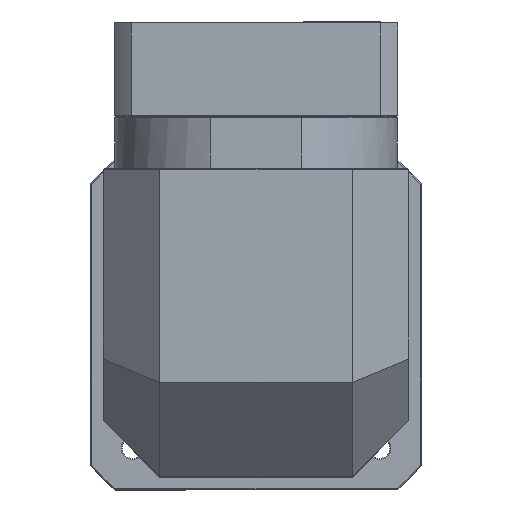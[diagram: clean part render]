
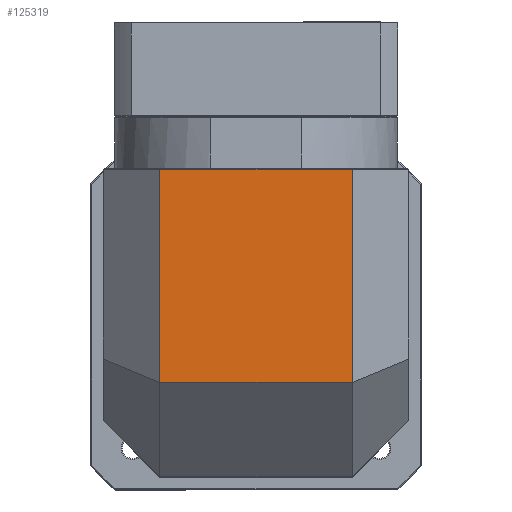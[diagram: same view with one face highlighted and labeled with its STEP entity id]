
A CAD part, top view. The second image highlights one B-rep face of the part: STEP entity #125319.
In plain terms, the highlighted planar face has unit normal (0, 0, 1).
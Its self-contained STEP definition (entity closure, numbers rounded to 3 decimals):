
#2759 = FACE_OUTER_BOUND ( 'NONE', #38776, .T. ) ;
#5895 = ORIENTED_EDGE ( 'NONE', *, *, #115146, .F. ) ;
#8094 = LINE ( 'NONE', #99362, #36202 ) ;
#10447 = DIRECTION ( 'NONE',  ( 0., 0., -1. ) ) ;
#20468 = DIRECTION ( 'NONE',  ( 1., 0., 0. ) ) ;
#23178 = CARTESIAN_POINT ( 'NONE',  ( -137.694, -20.362, 425.95 ) ) ;
#36202 = VECTOR ( 'NONE', #39516, 1000. ) ;
#38776 = EDGE_LOOP ( 'NONE', ( #70185, #68824, #5895, #107032 ) ) ;
#39516 = DIRECTION ( 'NONE',  ( -1., 0., 0. ) ) ;
#48584 = EDGE_CURVE ( 'NONE', #62136, #49721, #8094, .T. ) ;
#48909 = CARTESIAN_POINT ( 'NONE',  ( -137.694, 93.138, 425.95 ) ) ;
#49721 = VERTEX_POINT ( 'NONE', #120597 ) ;
#57179 = CARTESIAN_POINT ( 'NONE',  ( -107.694, -20.362, 425.95 ) ) ;
#57684 = CARTESIAN_POINT ( 'NONE',  ( -5.694, 93.138, 425.95 ) ) ;
#62136 = VERTEX_POINT ( 'NONE', #114662 ) ;
#68824 = ORIENTED_EDGE ( 'NONE', *, *, #48584, .T. ) ;
#69506 = PLANE ( 'NONE',  #90869 ) ;
#70185 = ORIENTED_EDGE ( 'NONE', *, *, #79382, .T. ) ;
#71496 = EDGE_CURVE ( 'NONE', #108221, #127616, #88528, .T. ) ;
#79382 = EDGE_CURVE ( 'NONE', #127616, #62136, #105208, .T. ) ;
#82256 = VECTOR ( 'NONE', #93917, 1000. ) ;
#82370 = CARTESIAN_POINT ( 'NONE',  ( -107.694, 11.388, 425.95 ) ) ;
#82819 = DIRECTION ( 'NONE',  ( 0., 1., 0. ) ) ;
#88528 = LINE ( 'NONE', #23178, #82256 ) ;
#90869 = AXIS2_PLACEMENT_3D ( 'NONE', #48909, #10447, #20468 ) ;
#93917 = DIRECTION ( 'NONE',  ( 1., 0., 0. ) ) ;
#99362 = CARTESIAN_POINT ( 'NONE',  ( -137.694, 92.638, 425.95 ) ) ;
#105208 = LINE ( 'NONE', #57684, #111376 ) ;
#106906 = LINE ( 'NONE', #82370, #128694 ) ;
#107032 = ORIENTED_EDGE ( 'NONE', *, *, #71496, .T. ) ;
#108221 = VERTEX_POINT ( 'NONE', #57179 ) ;
#111376 = VECTOR ( 'NONE', #128722, 1000. ) ;
#114662 = CARTESIAN_POINT ( 'NONE',  ( -5.694, 92.638, 425.95 ) ) ;
#115146 = EDGE_CURVE ( 'NONE', #108221, #49721, #106906, .T. ) ;
#116429 = CARTESIAN_POINT ( 'NONE',  ( -5.694, -20.362, 425.95 ) ) ;
#120597 = CARTESIAN_POINT ( 'NONE',  ( -107.694, 92.638, 425.95 ) ) ;
#125319 = ADVANCED_FACE ( 'NONE', ( #2759 ), #69506, .F. ) ;
#127616 = VERTEX_POINT ( 'NONE', #116429 ) ;
#128694 = VECTOR ( 'NONE', #82819, 1000. ) ;
#128722 = DIRECTION ( 'NONE',  ( 0., 1., 0. ) ) ;
